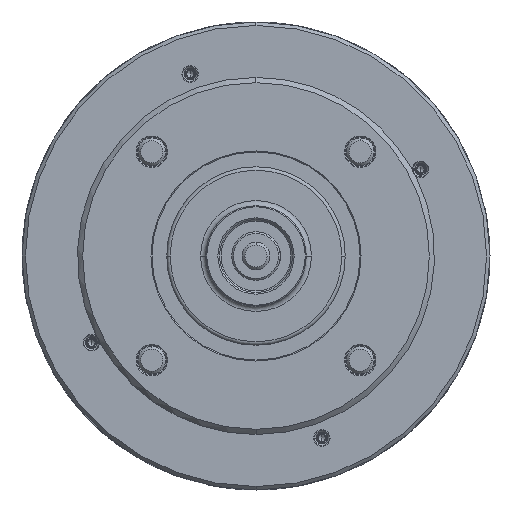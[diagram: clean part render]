
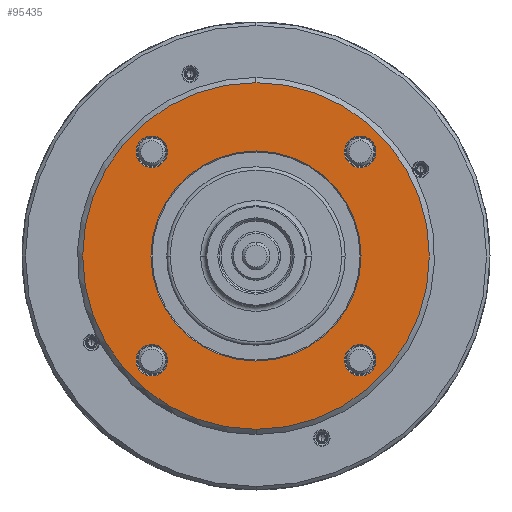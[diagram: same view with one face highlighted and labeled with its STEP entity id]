
A CAD part, left-side view. The second image highlights one B-rep face of the part: STEP entity #95435.
In plain terms, the highlighted planar face has unit normal (-1, 0, 0).
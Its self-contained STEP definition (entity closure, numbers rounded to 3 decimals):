
#370 = CIRCLE ( 'NONE', #67128, 100. ) ;
#651 = EDGE_CURVE ( 'NONE', #92165, #14850, #90390, .T. ) ;
#1637 = VERTEX_POINT ( 'NONE', #108613 ) ;
#2878 = AXIS2_PLACEMENT_3D ( 'NONE', #107520, #28013, #9453 ) ;
#3039 = EDGE_CURVE ( 'NONE', #91166, #68254, #37266, .T. ) ;
#5123 = VERTEX_POINT ( 'NONE', #7256 ) ;
#5213 = AXIS2_PLACEMENT_3D ( 'NONE', #20780, #63806, #72482 ) ;
#7256 = CARTESIAN_POINT ( 'NONE',  ( -110., -60.104, -69.204 ) ) ;
#7335 = DIRECTION ( 'NONE',  ( 0., 0., -1. ) ) ;
#7597 = AXIS2_PLACEMENT_3D ( 'NONE', #20150, #48654, #92146 ) ;
#9162 = EDGE_LOOP ( 'NONE', ( #34802, #53141 ) ) ;
#9453 = DIRECTION ( 'NONE',  ( 0., 0., -1. ) ) ;
#12799 = ORIENTED_EDGE ( 'NONE', *, *, #651, .T. ) ;
#14850 = VERTEX_POINT ( 'NONE', #48525 ) ;
#15522 = EDGE_LOOP ( 'NONE', ( #12799, #79597 ) ) ;
#15630 = VERTEX_POINT ( 'NONE', #73766 ) ;
#16136 = CARTESIAN_POINT ( 'NONE',  ( -110., 60.104, 69.204 ) ) ;
#16140 = EDGE_CURVE ( 'NONE', #68254, #91166, #49993, .T. ) ;
#20150 = CARTESIAN_POINT ( 'NONE',  ( -110., 0., 0. ) ) ;
#20780 = CARTESIAN_POINT ( 'NONE',  ( -110., 60.104, 60.104 ) ) ;
#20841 = EDGE_CURVE ( 'NONE', #42698, #46334, #370, .T. ) ;
#25700 = CARTESIAN_POINT ( 'NONE',  ( -110., 60.104, -69.204 ) ) ;
#26276 = EDGE_CURVE ( 'NONE', #75904, #1637, #104895, .T. ) ;
#28013 = DIRECTION ( 'NONE',  ( 1., 0., 0. ) ) ;
#30743 = DIRECTION ( 'NONE',  ( 1., 0., 0. ) ) ;
#31311 = ORIENTED_EDGE ( 'NONE', *, *, #83626, .T. ) ;
#31489 = CIRCLE ( 'NONE', #83422, 9.1 ) ;
#32256 = EDGE_CURVE ( 'NONE', #77118, #15630, #35745, .T. ) ;
#33465 = CARTESIAN_POINT ( 'NONE',  ( -110., -60.104, -60.104 ) ) ;
#34802 = ORIENTED_EDGE ( 'NONE', *, *, #61535, .T. ) ;
#35745 = CIRCLE ( 'NONE', #46878, 60.6 ) ;
#37266 = CIRCLE ( 'NONE', #63221, 9.1 ) ;
#37364 = EDGE_LOOP ( 'NONE', ( #59234, #57132 ) ) ;
#37394 = DIRECTION ( 'NONE',  ( 1., 0., 0. ) ) ;
#39185 = CIRCLE ( 'NONE', #61431, 9.1 ) ;
#39536 = ORIENTED_EDGE ( 'NONE', *, *, #3039, .T. ) ;
#39761 = CARTESIAN_POINT ( 'NONE',  ( -110., 0., -100. ) ) ;
#39949 = CARTESIAN_POINT ( 'NONE',  ( -110., 0., -60.6 ) ) ;
#41175 = DIRECTION ( 'NONE',  ( 0., 0., -1. ) ) ;
#41430 = DIRECTION ( 'NONE',  ( 1., 0., 0. ) ) ;
#42698 = VERTEX_POINT ( 'NONE', #43896 ) ;
#43005 = CARTESIAN_POINT ( 'NONE',  ( -110., -60.104, -60.104 ) ) ;
#43554 = FACE_BOUND ( 'NONE', #37364, .T. ) ;
#43602 = AXIS2_PLACEMENT_3D ( 'NONE', #89926, #87659, #88215 ) ;
#43896 = CARTESIAN_POINT ( 'NONE',  ( -110., 0., 100. ) ) ;
#44203 = CARTESIAN_POINT ( 'NONE',  ( -110., 60.104, -60.104 ) ) ;
#44708 = AXIS2_PLACEMENT_3D ( 'NONE', #96195, #37394, #52697 ) ;
#46334 = VERTEX_POINT ( 'NONE', #39761 ) ;
#46878 = AXIS2_PLACEMENT_3D ( 'NONE', #92848, #30743, #41175 ) ;
#48525 = CARTESIAN_POINT ( 'NONE',  ( -110., -60.104, 51.004 ) ) ;
#48654 = DIRECTION ( 'NONE',  ( 1., 0., 0. ) ) ;
#49993 = CIRCLE ( 'NONE', #5213, 9.1 ) ;
#52002 = EDGE_LOOP ( 'NONE', ( #39536, #71544 ) ) ;
#52697 = DIRECTION ( 'NONE',  ( 0., 0., -1. ) ) ;
#53141 = ORIENTED_EDGE ( 'NONE', *, *, #32256, .T. ) ;
#53420 = PLANE ( 'NONE',  #43602 ) ;
#54199 = CARTESIAN_POINT ( 'NONE',  ( -110., 0., 0. ) ) ;
#54466 = DIRECTION ( 'NONE',  ( 0., 0., -1. ) ) ;
#54692 = EDGE_LOOP ( 'NONE', ( #59821, #31311 ) ) ;
#55337 = FACE_BOUND ( 'NONE', #54692, .T. ) ;
#57132 = ORIENTED_EDGE ( 'NONE', *, *, #26276, .T. ) ;
#59234 = ORIENTED_EDGE ( 'NONE', *, *, #112718, .T. ) ;
#59301 = EDGE_CURVE ( 'NONE', #14850, #92165, #63286, .T. ) ;
#59821 = ORIENTED_EDGE ( 'NONE', *, *, #82024, .T. ) ;
#61431 = AXIS2_PLACEMENT_3D ( 'NONE', #33465, #96136, #7335 ) ;
#61535 = EDGE_CURVE ( 'NONE', #15630, #77118, #65455, .T. ) ;
#61587 = FACE_BOUND ( 'NONE', #15522, .T. ) ;
#63221 = AXIS2_PLACEMENT_3D ( 'NONE', #83599, #91146, #93493 ) ;
#63267 = FACE_OUTER_BOUND ( 'NONE', #64456, .T. ) ;
#63286 = CIRCLE ( 'NONE', #44708, 9.1 ) ;
#63806 = DIRECTION ( 'NONE',  ( 1., 0., 0. ) ) ;
#64456 = EDGE_LOOP ( 'NONE', ( #91867, #85029 ) ) ;
#65455 = CIRCLE ( 'NONE', #67364, 60.6 ) ;
#67128 = AXIS2_PLACEMENT_3D ( 'NONE', #54199, #107527, #81986 ) ;
#67364 = AXIS2_PLACEMENT_3D ( 'NONE', #71818, #107226, #54466 ) ;
#68254 = VERTEX_POINT ( 'NONE', #70098 ) ;
#70098 = CARTESIAN_POINT ( 'NONE',  ( -110., 60.104, 51.004 ) ) ;
#70213 = CARTESIAN_POINT ( 'NONE',  ( -110., -60.104, 60.104 ) ) ;
#70688 = VERTEX_POINT ( 'NONE', #71212 ) ;
#71212 = CARTESIAN_POINT ( 'NONE',  ( -110., -60.104, -51.004 ) ) ;
#71544 = ORIENTED_EDGE ( 'NONE', *, *, #16140, .T. ) ;
#71818 = CARTESIAN_POINT ( 'NONE',  ( -110., 0., 0. ) ) ;
#72482 = DIRECTION ( 'NONE',  ( 0., 0., -1. ) ) ;
#73766 = CARTESIAN_POINT ( 'NONE',  ( -110., 0., 60.6 ) ) ;
#75904 = VERTEX_POINT ( 'NONE', #25700 ) ;
#77118 = VERTEX_POINT ( 'NONE', #39949 ) ;
#78844 = CARTESIAN_POINT ( 'NONE',  ( -110., -60.104, 69.204 ) ) ;
#79597 = ORIENTED_EDGE ( 'NONE', *, *, #59301, .T. ) ;
#80044 = DIRECTION ( 'NONE',  ( 0., 0., -1. ) ) ;
#81986 = DIRECTION ( 'NONE',  ( 0., 0., -1. ) ) ;
#82024 = EDGE_CURVE ( 'NONE', #70688, #5123, #31489, .T. ) ;
#83422 = AXIS2_PLACEMENT_3D ( 'NONE', #43005, #112666, #104528 ) ;
#83490 = EDGE_CURVE ( 'NONE', #46334, #42698, #96584, .T. ) ;
#83599 = CARTESIAN_POINT ( 'NONE',  ( -110., 60.104, 60.104 ) ) ;
#83626 = EDGE_CURVE ( 'NONE', #5123, #70688, #39185, .T. ) ;
#85029 = ORIENTED_EDGE ( 'NONE', *, *, #20841, .F. ) ;
#87659 = DIRECTION ( 'NONE',  ( 1., 0., 0. ) ) ;
#88215 = DIRECTION ( 'NONE',  ( 0., 0., -1. ) ) ;
#88508 = AXIS2_PLACEMENT_3D ( 'NONE', #70213, #114326, #80044 ) ;
#89355 = FACE_BOUND ( 'NONE', #52002, .T. ) ;
#89926 = CARTESIAN_POINT ( 'NONE',  ( -110., -100., 0. ) ) ;
#90390 = CIRCLE ( 'NONE', #88508, 9.1 ) ;
#91146 = DIRECTION ( 'NONE',  ( 1., 0., 0. ) ) ;
#91166 = VERTEX_POINT ( 'NONE', #16136 ) ;
#91867 = ORIENTED_EDGE ( 'NONE', *, *, #83490, .F. ) ;
#92146 = DIRECTION ( 'NONE',  ( 0., 0., -1. ) ) ;
#92165 = VERTEX_POINT ( 'NONE', #78844 ) ;
#92848 = CARTESIAN_POINT ( 'NONE',  ( -110., 0., 0. ) ) ;
#93493 = DIRECTION ( 'NONE',  ( 0., 0., -1. ) ) ;
#94374 = AXIS2_PLACEMENT_3D ( 'NONE', #44203, #41430, #102957 ) ;
#95435 = ADVANCED_FACE ( 'NONE', ( #43554, #55337, #61587, #89355, #63267, #98655 ), #53420, .F. ) ;
#96136 = DIRECTION ( 'NONE',  ( 1., 0., 0. ) ) ;
#96195 = CARTESIAN_POINT ( 'NONE',  ( -110., -60.104, 60.104 ) ) ;
#96584 = CIRCLE ( 'NONE', #7597, 100. ) ;
#98655 = FACE_BOUND ( 'NONE', #9162, .T. ) ;
#99933 = CIRCLE ( 'NONE', #94374, 9.1 ) ;
#102957 = DIRECTION ( 'NONE',  ( 0., 0., -1. ) ) ;
#104528 = DIRECTION ( 'NONE',  ( 0., 0., -1. ) ) ;
#104895 = CIRCLE ( 'NONE', #2878, 9.1 ) ;
#107226 = DIRECTION ( 'NONE',  ( 1., 0., 0. ) ) ;
#107520 = CARTESIAN_POINT ( 'NONE',  ( -110., 60.104, -60.104 ) ) ;
#107527 = DIRECTION ( 'NONE',  ( 1., 0., 0. ) ) ;
#108613 = CARTESIAN_POINT ( 'NONE',  ( -110., 60.104, -51.004 ) ) ;
#112666 = DIRECTION ( 'NONE',  ( 1., 0., 0. ) ) ;
#112718 = EDGE_CURVE ( 'NONE', #1637, #75904, #99933, .T. ) ;
#114326 = DIRECTION ( 'NONE',  ( 1., 0., 0. ) ) ;
